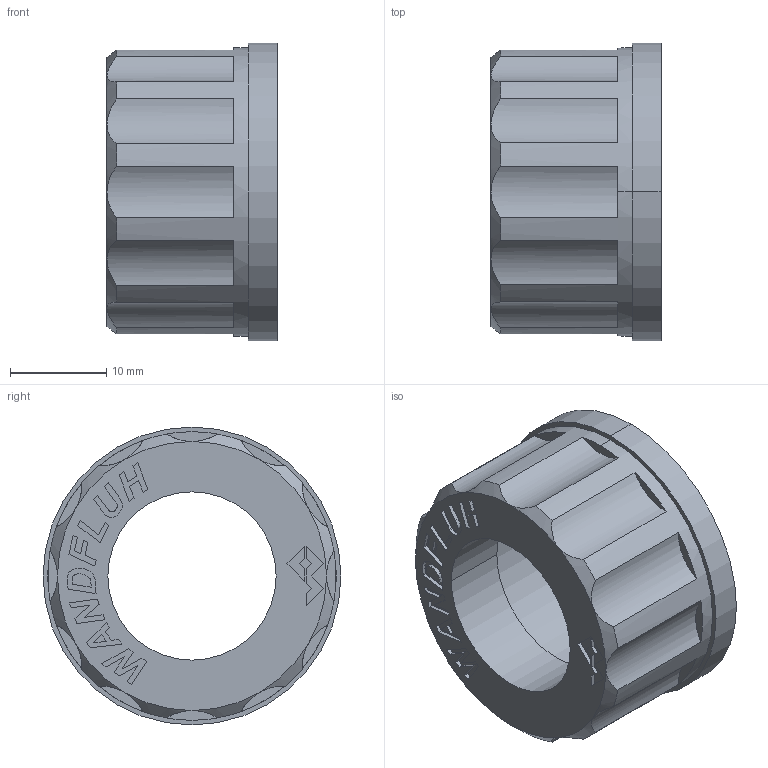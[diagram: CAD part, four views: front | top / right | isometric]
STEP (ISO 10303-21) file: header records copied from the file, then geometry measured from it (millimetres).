
FILE_DESCRIPTION (( 'STEP AP214' ), '1' );
FILE_NAME ('KNURLED_NUT.STEP', '2014-03-19T10:18:10', ( '' ), ( '' ), 'SwSTEP 2.0', 'SolidWorks 2012', '' );
FILE_SCHEMA (( 'AUTOMOTIVE_DESIGN' ));
Length unit declared in the file: millimetre
Products named in the file (1): KNURLED_NUT
Bounding box: 17.7 x 31 x 31 mm (x, y, z)
Volume: 6522.4 mm3; surface area: 3848.3 mm2
Topology: 1 solids, 1 shells, 174 faces, 458 edges, 301 vertices
Faces by surface type: plane 121, cylinder 23, bspline 16, cone 14
Entity records: 6345 total; most frequent: CARTESIAN_POINT 2074, ORIENTED_EDGE 916, DIRECTION 789, EDGE_CURVE 458, LINE 329, VECTOR 329, VERTEX_POINT 301, AXIS2_PLACEMENT_3D 230
